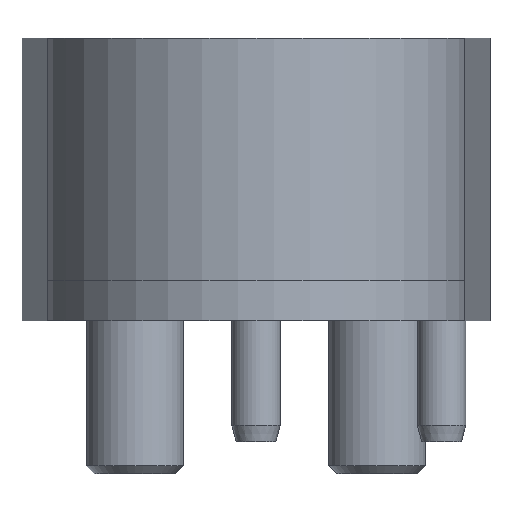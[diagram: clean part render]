
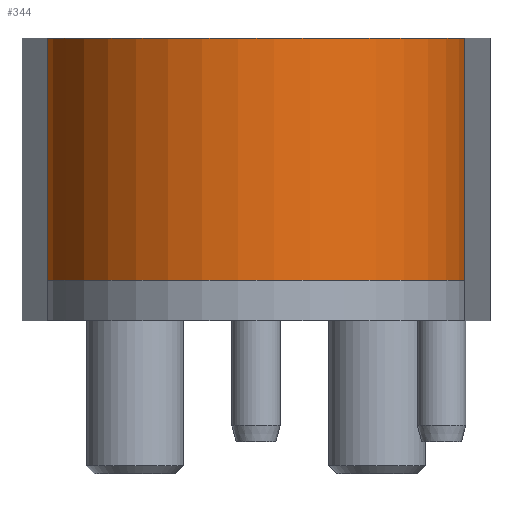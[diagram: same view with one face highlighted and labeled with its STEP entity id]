
A CAD part, left-side view. The second image highlights one B-rep face of the part: STEP entity #344.
In plain terms, the highlighted cylindrical face has radius 26 mm (diameter 52 mm), a partial arc.
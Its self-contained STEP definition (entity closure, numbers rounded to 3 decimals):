
#255=CYLINDRICAL_SURFACE('',#2702,26.);
#344=ADVANCED_FACE('',(#521),#255,.T.);
#521=FACE_OUTER_BOUND('',#673,.T.);
#673=EDGE_LOOP('',(#1167,#1168,#1169,#1170));
#859=CIRCLE('',#2700,26.);
#860=CIRCLE('',#2701,26.);
#1167=ORIENTED_EDGE('',*,*,#1975,.T.);
#1168=ORIENTED_EDGE('',*,*,#1976,.F.);
#1169=ORIENTED_EDGE('',*,*,#1977,.F.);
#1170=ORIENTED_EDGE('',*,*,#1978,.T.);
#1715=VERTEX_POINT('',#3979);
#1716=VERTEX_POINT('',#3980);
#1717=VERTEX_POINT('',#3982);
#1718=VERTEX_POINT('',#3984);
#1975=EDGE_CURVE('',#1715,#1716,#2263,.T.);
#1976=EDGE_CURVE('',#1717,#1716,#859,.T.);
#1977=EDGE_CURVE('',#1718,#1717,#2264,.T.);
#1978=EDGE_CURVE('',#1718,#1715,#860,.T.);
#2263=LINE('',#3978,#2455);
#2264=LINE('',#3983,#2456);
#2455=VECTOR('',#3155,1.);
#2456=VECTOR('',#3158,1.);
#2700=AXIS2_PLACEMENT_3D('',#3981,#3156,#3157);
#2701=AXIS2_PLACEMENT_3D('',#3985,#3159,#3160);
#2702=AXIS2_PLACEMENT_3D('',#3986,#3161,#3162);
#3155=DIRECTION('',(0.,0.,1.));
#3156=DIRECTION('',(0.,0.,1.));
#3157=DIRECTION('',(1.,0.,0.));
#3158=DIRECTION('',(0.,0.,1.));
#3159=DIRECTION('',(0.,0.,1.));
#3160=DIRECTION('',(1.,0.,0.));
#3161=DIRECTION('',(0.,0.,1.));
#3162=DIRECTION('',(-1.,0.,0.));
#3978=CARTESIAN_POINT('',(-2.342,-25.894,5.));
#3979=CARTESIAN_POINT('',(-2.342,-25.894,5.));
#3980=CARTESIAN_POINT('',(-2.342,-25.894,35.));
#3981=CARTESIAN_POINT('',(0.,0.,35.));
#3982=CARTESIAN_POINT('',(-2.342,25.894,35.));
#3983=CARTESIAN_POINT('',(-2.342,25.894,5.));
#3984=CARTESIAN_POINT('',(-2.342,25.894,5.));
#3985=CARTESIAN_POINT('',(0.,0.,5.));
#3986=CARTESIAN_POINT('',(0.,0.,0.));
